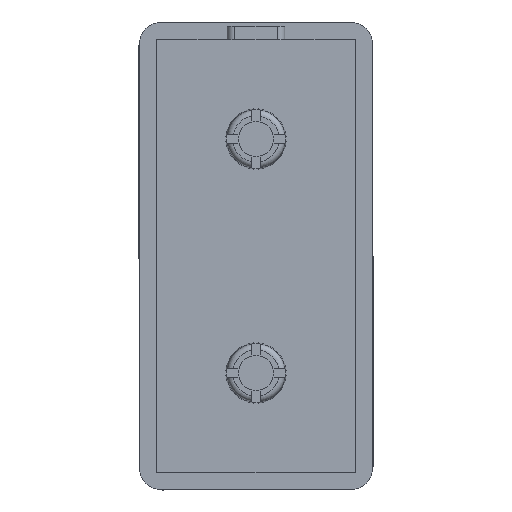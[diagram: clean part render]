
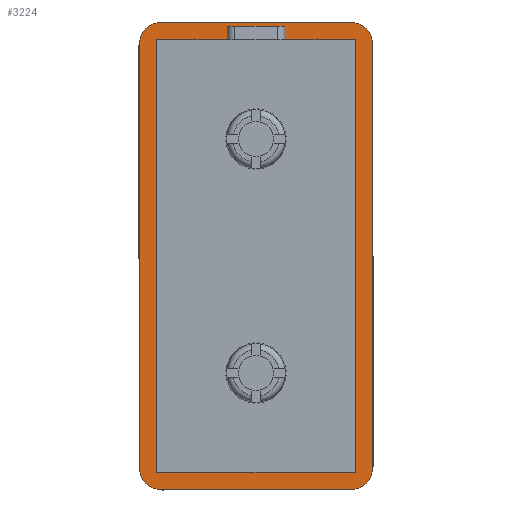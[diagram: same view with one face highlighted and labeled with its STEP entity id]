
A CAD part, front view. The second image highlights one B-rep face of the part: STEP entity #3224.
In plain terms, the highlighted planar face has unit normal (0, -1, 0).
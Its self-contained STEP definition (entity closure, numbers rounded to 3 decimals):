
#114=FACE_BOUND('',#428,.T.);
#126=PLANE('',#3448);
#250=FACE_OUTER_BOUND('',#427,.T.);
#427=EDGE_LOOP('',(#2248,#2249,#2250,#2251,#2252,#2253,#2254,#2255));
#428=EDGE_LOOP('',(#2256,#2257,#2258,#2259,#2260,#2261,#2262,#2263));
#619=LINE('',#4752,#907);
#622=LINE('',#4768,#910);
#625=LINE('',#4784,#913);
#628=LINE('',#4800,#916);
#629=LINE('',#4809,#917);
#630=LINE('',#4811,#918);
#631=LINE('',#4813,#919);
#632=LINE('',#4815,#920);
#633=LINE('',#4817,#921);
#634=LINE('',#4819,#922);
#635=LINE('',#4821,#923);
#636=LINE('',#4822,#924);
#907=VECTOR('',#3821,1000.);
#910=VECTOR('',#3828,1000.);
#913=VECTOR('',#3835,1000.);
#916=VECTOR('',#3842,1000.);
#917=VECTOR('',#3855,1000.);
#918=VECTOR('',#3856,1000.);
#919=VECTOR('',#3857,1000.);
#920=VECTOR('',#3858,1000.);
#921=VECTOR('',#3859,1000.);
#922=VECTOR('',#3860,1000.);
#923=VECTOR('',#3861,1000.);
#924=VECTOR('',#3862,1000.);
#1203=CIRCLE('',#3447,4.);
#1204=CIRCLE('',#3449,4.);
#1205=CIRCLE('',#3450,4.);
#1206=CIRCLE('',#3451,4.);
#1356=VERTEX_POINT('',#4748);
#1357=VERTEX_POINT('',#4750);
#1358=VERTEX_POINT('',#4764);
#1359=VERTEX_POINT('',#4766);
#1360=VERTEX_POINT('',#4780);
#1361=VERTEX_POINT('',#4782);
#1362=VERTEX_POINT('',#4796);
#1363=VERTEX_POINT('',#4798);
#1364=VERTEX_POINT('',#4807);
#1365=VERTEX_POINT('',#4808);
#1366=VERTEX_POINT('',#4810);
#1367=VERTEX_POINT('',#4812);
#1368=VERTEX_POINT('',#4814);
#1369=VERTEX_POINT('',#4816);
#1370=VERTEX_POINT('',#4818);
#1371=VERTEX_POINT('',#4820);
#1701=EDGE_CURVE('',#1357,#1356,#619,.T.);
#1705=EDGE_CURVE('',#1359,#1358,#622,.T.);
#1709=EDGE_CURVE('',#1361,#1360,#625,.T.);
#1713=EDGE_CURVE('',#1363,#1362,#628,.T.);
#1714=EDGE_CURVE('',#1356,#1363,#1203,.T.);
#1715=EDGE_CURVE('',#1358,#1357,#1204,.T.);
#1716=EDGE_CURVE('',#1360,#1359,#1205,.T.);
#1717=EDGE_CURVE('',#1362,#1361,#1206,.T.);
#1718=EDGE_CURVE('',#1364,#1365,#629,.T.);
#1719=EDGE_CURVE('',#1366,#1364,#630,.T.);
#1720=EDGE_CURVE('',#1367,#1366,#631,.T.);
#1721=EDGE_CURVE('',#1368,#1367,#632,.T.);
#1722=EDGE_CURVE('',#1369,#1368,#633,.T.);
#1723=EDGE_CURVE('',#1370,#1369,#634,.T.);
#1724=EDGE_CURVE('',#1371,#1370,#635,.T.);
#1725=EDGE_CURVE('',#1365,#1371,#636,.T.);
#2248=ORIENTED_EDGE('',*,*,#1715,.F.);
#2249=ORIENTED_EDGE('',*,*,#1705,.F.);
#2250=ORIENTED_EDGE('',*,*,#1716,.F.);
#2251=ORIENTED_EDGE('',*,*,#1709,.F.);
#2252=ORIENTED_EDGE('',*,*,#1717,.F.);
#2253=ORIENTED_EDGE('',*,*,#1713,.F.);
#2254=ORIENTED_EDGE('',*,*,#1714,.F.);
#2255=ORIENTED_EDGE('',*,*,#1701,.F.);
#2256=ORIENTED_EDGE('',*,*,#1718,.F.);
#2257=ORIENTED_EDGE('',*,*,#1719,.F.);
#2258=ORIENTED_EDGE('',*,*,#1720,.F.);
#2259=ORIENTED_EDGE('',*,*,#1721,.F.);
#2260=ORIENTED_EDGE('',*,*,#1722,.F.);
#2261=ORIENTED_EDGE('',*,*,#1723,.F.);
#2262=ORIENTED_EDGE('',*,*,#1724,.F.);
#2263=ORIENTED_EDGE('',*,*,#1725,.F.);
#3224=ADVANCED_FACE('',(#250,#114),#126,.F.);
#3447=AXIS2_PLACEMENT_3D('',#4802,#3845,#3846);
#3448=AXIS2_PLACEMENT_3D('',#4803,#3847,#3848);
#3449=AXIS2_PLACEMENT_3D('',#4804,#3849,#3850);
#3450=AXIS2_PLACEMENT_3D('',#4805,#3851,#3852);
#3451=AXIS2_PLACEMENT_3D('',#4806,#3853,#3854);
#3821=DIRECTION('',(1.,0.,0.));
#3828=DIRECTION('',(0.,0.,1.));
#3835=DIRECTION('',(-1.,0.,0.));
#3842=DIRECTION('',(0.,0.,-1.));
#3845=DIRECTION('center_axis',(0.,1.,0.));
#3846=DIRECTION('ref_axis',(0.,0.,-1.));
#3847=DIRECTION('center_axis',(0.,1.,0.));
#3848=DIRECTION('ref_axis',(0.,0.,1.));
#3849=DIRECTION('center_axis',(0.,1.,0.));
#3850=DIRECTION('ref_axis',(0.,0.,-1.));
#3851=DIRECTION('center_axis',(0.,1.,0.));
#3852=DIRECTION('ref_axis',(0.,0.,-1.));
#3853=DIRECTION('center_axis',(0.,1.,0.));
#3854=DIRECTION('ref_axis',(0.,0.,-1.));
#3855=DIRECTION('',(0.,0.,1.));
#3856=DIRECTION('',(-1.,0.,0.));
#3857=DIRECTION('',(0.,0.,1.));
#3858=DIRECTION('',(1.,0.,0.));
#3859=DIRECTION('',(0.,0.,-1.));
#3860=DIRECTION('',(-1.,0.,0.));
#3861=DIRECTION('',(0.,0.,-1.));
#3862=DIRECTION('',(-1.,0.,0.));
#4748=CARTESIAN_POINT('',(16.,0.,40.));
#4750=CARTESIAN_POINT('',(-16.,0.,40.));
#4752=CARTESIAN_POINT('',(-20.,0.,40.));
#4764=CARTESIAN_POINT('',(-20.,0.,36.));
#4766=CARTESIAN_POINT('',(-20.,0.,-36.));
#4768=CARTESIAN_POINT('',(-20.,0.,-40.));
#4780=CARTESIAN_POINT('',(-16.,0.,-40.));
#4782=CARTESIAN_POINT('',(16.,0.,-40.));
#4784=CARTESIAN_POINT('',(20.,0.,-40.));
#4796=CARTESIAN_POINT('',(20.,0.,-36.));
#4798=CARTESIAN_POINT('',(20.,0.,36.));
#4800=CARTESIAN_POINT('',(20.,0.,40.));
#4802=CARTESIAN_POINT('Origin',(16.,0.,36.));
#4803=CARTESIAN_POINT('Origin',(0.,0.,0.));
#4804=CARTESIAN_POINT('Origin',(-16.,0.,36.));
#4805=CARTESIAN_POINT('Origin',(-16.,0.,-36.));
#4806=CARTESIAN_POINT('Origin',(16.,0.,-36.));
#4807=CARTESIAN_POINT('',(4.9,0.,37.));
#4808=CARTESIAN_POINT('',(4.9,0.,39.3));
#4809=CARTESIAN_POINT('',(4.9,0.,0.));
#4810=CARTESIAN_POINT('',(17.,0.,37.));
#4811=CARTESIAN_POINT('',(0.,0.,37.));
#4812=CARTESIAN_POINT('',(17.,0.,-37.));
#4813=CARTESIAN_POINT('',(17.,0.,0.));
#4814=CARTESIAN_POINT('',(-17.,0.,-37.));
#4815=CARTESIAN_POINT('',(0.,0.,-37.));
#4816=CARTESIAN_POINT('',(-17.,0.,37.));
#4817=CARTESIAN_POINT('',(-17.,0.,0.));
#4818=CARTESIAN_POINT('',(-4.9,0.,37.));
#4819=CARTESIAN_POINT('',(0.,0.,37.));
#4820=CARTESIAN_POINT('',(-4.9,0.,39.3));
#4821=CARTESIAN_POINT('',(-4.9,0.,0.));
#4822=CARTESIAN_POINT('',(0.,0.,39.3));
